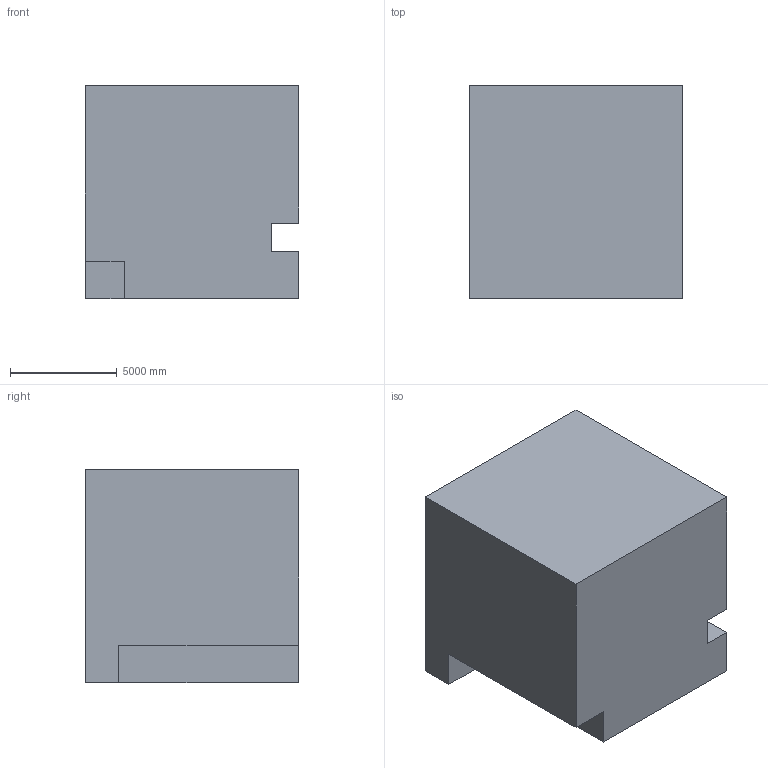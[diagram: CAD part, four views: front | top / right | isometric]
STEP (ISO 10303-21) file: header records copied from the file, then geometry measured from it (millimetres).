
FILE_DESCRIPTION (( 'STEP AP203' ), '1' );
FILE_NAME ('59.STEP', '2022-08-31T11:20:08', ( 'user' ), ( '' ), 'SwSTEP 2.0', 'SolidWorks 2021', '' );
FILE_SCHEMA (( 'CONFIG_CONTROL_DESIGN' ));
Length unit declared in the file: centimetre
Products named in the file (1): 59
Bounding box: 10000 x 10000 x 10000 mm (x, y, z)
Volume: 934154684067 mm3; surface area: 627281656.9 mm2
Topology: 1 solids, 1 shells, 17 faces, 45 edges, 30 vertices
Faces by surface type: plane 15, cylinder 2
Entity records: 600 total; most frequent: CARTESIAN_POINT 93, ORIENTED_EDGE 90, DIRECTION 85, EDGE_CURVE 45, LINE 41, VECTOR 41, VERTEX_POINT 30, AXIS2_PLACEMENT_3D 22
